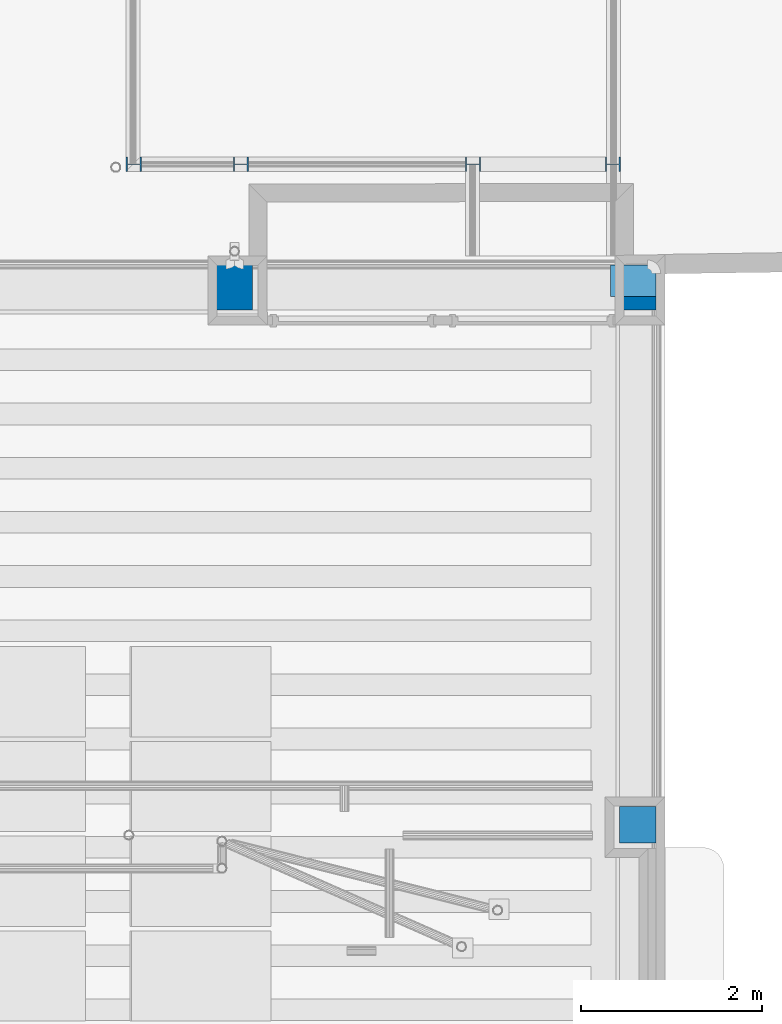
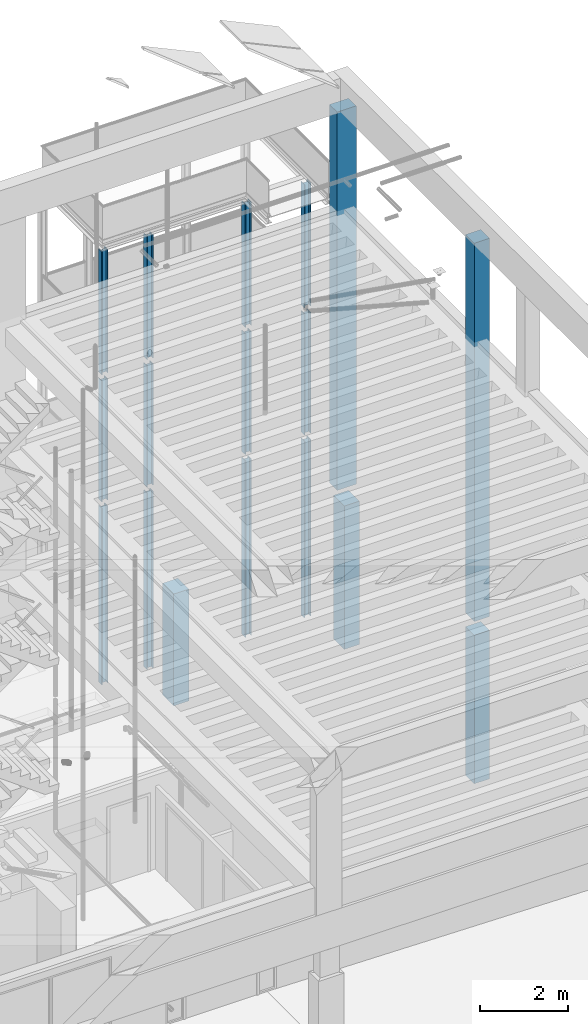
# One storey, part 2 of 108: 17 columns.
"""IFC2X3 building model written with IfcOpenShell, lengths in metres."""

import ifcopenshell
import ifcopenshell.guid

model = None  # the IFC model being written
_history = None  # IfcOwnerHistory: only IFC2X3 demands one
_inside = {}  # id of a spatial element -> (the spatial element, [elements in it])
_under = {}  # id of a project, library or spatial element -> (it, [spatial elements below it])
_declared = {}  # id of a project -> (the project, [libraries it declares])
_typed = {}  # id of a type object -> (the type object, [elements of that type])
_made_of = {}  # id of a material, layer set ... -> (it, [elements and type objects made of it])


def new_model(schema):
    """Start an empty IFC model of exactly this schema.

    Asked for "IFC4X3", IfcOpenShell would pick the latest addendum, in which some entities
    have other attributes; the version numbers below select the first issue.
    IFC2X3 requires an IfcOwnerHistory on every rooted entity: one is made here for all.
    """
    global model, _history
    if schema == "IFC4X3":
        model = ifcopenshell.file(schema_version=(4, 3, 0, 0))
    else:
        model = ifcopenshell.file(schema=schema)
    _inside.clear()
    _under.clear()
    _declared.clear()
    _typed.clear()
    _made_of.clear()
    _history = None
    if model.schema == "IFC2X3":
        org = make("IfcOrganization", Name="unknown")
        user = make(
            "IfcPersonAndOrganization",
            ThePerson=make("IfcPerson", FamilyName="unknown"),
            TheOrganization=org,
        )
        app = make(
            "IfcApplication",
            ApplicationDeveloper=org,
            Version="unknown",
            ApplicationFullName="unknown",
            ApplicationIdentifier="unknown",
        )
        _history = make(
            "IfcOwnerHistory",
            OwningUser=user,
            OwningApplication=app,
            ChangeAction="ADDED",
            CreationDate=0,
        )
    return model


def make(cls, **values):
    """One entity of the class cls with the attributes given. An attribute that is None is left unset."""
    return model.create_entity(
        cls, **{name: value for name, value in values.items() if value is not None}
    )


def entity(cls, *values):
    """Any entity or typed value of the class cls, its attributes in the order of the schema. None: left unset."""
    e = model.create_entity(cls)
    for i, value in enumerate(values):
        if value is not None:
            e[i] = value
    return e


def rooted(cls, **values):
    """An entity with a GlobalId (a new one), such as an element, a storey or a relation."""
    return make(cls, GlobalId=ifcopenshell.guid.new(), OwnerHistory=_history, **values)


def si_unit(unit_type, name, prefix=None):
    """IfcSIUnit, for example si_unit("LENGTHUNIT", "METRE", prefix="MILLI")."""
    return make("IfcSIUnit", UnitType=unit_type, Prefix=prefix, Name=name)


def converted_unit(unit_type, name, factor, base, dimensions=None, offset=None):
    """IfcConversionBasedUnit, such as the inch: factor (a typed value) times the base unit."""
    return make(
        "IfcConversionBasedUnit"
        if offset is None
        else "IfcConversionBasedUnitWithOffset",
        ConversionOffset=offset,
        Dimensions=None
        if dimensions is None
        else entity("IfcDimensionalExponents", *dimensions),
        UnitType=unit_type,
        Name=name,
        ConversionFactor=make(
            "IfcMeasureWithUnit", ValueComponent=factor, UnitComponent=base
        ),
    )


def derived_unit(unit_type, elements):
    """IfcDerivedUnit: a product of units, each with its exponent."""
    return make(
        "IfcDerivedUnit",
        Elements=[
            make("IfcDerivedUnitElement", Unit=unit, Exponent=power)
            for unit, power in elements
        ],
        UnitType=unit_type,
    )


def money_unit(currency):
    """IfcMonetaryUnit."""
    return make("IfcMonetaryUnit", Currency=currency)


def assignment(units):
    """IfcUnitAssignment: the units of a project."""
    return None if units is None else make("IfcUnitAssignment", Units=units)


def point(xyz):
    """IfcCartesianPoint."""
    return None if xyz is None else make("IfcCartesianPoint", Coordinates=xyz)


def direction(xyz):
    """IfcDirection."""
    return None if xyz is None else make("IfcDirection", DirectionRatios=xyz)


def frame(location, z_axis=None, x_axis=None):
    """IfcAxis2Placement3D, a coordinate frame: its origin and axes. An axis left out is left unset."""
    return make(
        "IfcAxis2Placement3D",
        Location=point(location),
        Axis=direction(z_axis),
        RefDirection=direction(x_axis),
    )


def frame_2d(location, x_axis=None):
    """IfcAxis2Placement2D, a coordinate frame in the plane: its origin and x axis."""
    return make(
        "IfcAxis2Placement2D", Location=point(location), RefDirection=direction(x_axis)
    )


def origin_with_axes():
    """The frame at (0, 0, 0) with the z axis (0, 0, 1) and the x axis (1, 0, 0) written out."""
    return frame((0.0, 0.0, 0.0), z_axis=(0.0, 0.0, 1.0), x_axis=(1.0, 0.0, 0.0))


def place(relative_to, where):
    """IfcLocalPlacement: puts the frame where relative to a parent placement (None: the world)."""
    return make(
        "IfcLocalPlacement", PlacementRelTo=relative_to, RelativePlacement=where
    )


def context(
    kind, dimensions, precision=None, world=None, true_north=None, identifier=None
):
    """IfcGeometricRepresentationContext, for example the 3D "Model" context."""
    return make(
        "IfcGeometricRepresentationContext",
        ContextIdentifier=identifier,
        ContextType=kind,
        CoordinateSpaceDimension=dimensions,
        Precision=precision,
        WorldCoordinateSystem=world,
        TrueNorth=true_north,
    )


def subcontext(parent, identifier, kind, view, scale=None):
    """IfcGeometricRepresentationSubContext, for example "Body" below "Model"."""
    return make(
        "IfcGeometricRepresentationSubContext",
        ContextIdentifier=identifier,
        ContextType=kind,
        ParentContext=parent,
        TargetScale=scale,
        TargetView=view,
    )


def project(units=None, contexts=None):
    """IfcProject with its units and contexts."""
    return rooted(
        "IfcProject",
        Name="project",
        RepresentationContexts=contexts,
        UnitsInContext=assignment(units),
    )


def spatial(cls, under=None, at=None, **own):
    """A site, building, storey or space (cls), placed at a placement, below another one or the project."""
    s = rooted(cls, ObjectPlacement=at, **own)
    if under is not None:
        _under.setdefault(under.id(), (under, []))[1].append(s)
    return s


def polyline(points):
    """IfcPolyline through the points."""
    return make("IfcPolyline", Points=[point(p) for p in points])


def profile(cls, at=None, kind="AREA", **sizes):
    """A parametric profile (cls). Its sizes go by their IFC names, for example OverallWidth=200.0."""
    return make(cls, ProfileType=kind, Position=at, **sizes)


def rectangle(**sizes):
    """IfcRectangleProfileDef."""
    return profile("IfcRectangleProfileDef", **sizes)


def outline(outer, holes=None, kind="AREA"):
    """IfcArbitraryClosedProfileDef: a profile drawn as a closed curve; with holes, ...WithVoids."""
    if holes is None:
        return make("IfcArbitraryClosedProfileDef", ProfileType=kind, OuterCurve=outer)
    return make(
        "IfcArbitraryProfileDefWithVoids",
        ProfileType=kind,
        OuterCurve=outer,
        InnerCurves=holes,
    )


def extrude(swept, where, along, depth):
    """IfcExtrudedAreaSolid: the profile swept, set in the frame where, extruded along a direction by depth."""
    return make(
        "IfcExtrudedAreaSolid",
        SweptArea=swept,
        Position=where,
        ExtrudedDirection=direction(along),
        Depth=depth,
    )


def shape(context_of_items, identifier, shape_type, items):
    """IfcShapeRepresentation: the items that make up one representation, for example the "Body"."""
    return make(
        "IfcShapeRepresentation",
        ContextOfItems=context_of_items,
        RepresentationIdentifier=identifier,
        RepresentationType=shape_type,
        Items=items,
    )


def material(Name=None, Category=None):
    """IfcMaterial."""
    return make("IfcMaterial", Name=Name, Category=Category)


def made_of(thing, what):
    """Note that an element or type object is made of a material, layer set ...; save() writes the relation."""
    if what is not None:
        _made_of.setdefault(what.id(), (what, []))[1].append(thing)
    return thing


def type_object(cls, material=None, **own):
    """A type object (cls), such as IfcWallType, which elements share."""
    return made_of(rooted(cls, **own), material)


def element(
    cls,
    number,
    at=None,
    inside=None,
    cuts=None,
    type_object=None,
    material=None,
    context=None,
    identifier="Body",
    shape_type=None,
    held_by="IfcProductDefinitionShape",
    body=None,
    shapes=None,
    **own,
):
    """One element of the class cls, such as IfcWall. Its Tag is "e" and its number.

    at: its placement. inside: the storey or other place that contains it. cuts: it is an
    opening in that element (IfcRelVoidsElement). A single representation is given by context,
    identifier, shape_type and body (its items); several are given by shapes. held_by: the class
    of the entity that holds the representations. save() writes the other relations.
    """
    e = rooted(cls, Tag="e%d" % number, ObjectPlacement=at, **own)
    if body is not None:
        shapes = [shape(context, identifier, shape_type, body)]
    if shapes is not None:
        e.Representation = make(held_by, Representations=shapes)
    if inside is not None:
        _inside.setdefault(inside.id(), (inside, []))[1].append(e)
    if cuts is not None:
        rooted(
            "IfcRelVoidsElement", RelatingBuildingElement=cuts, RelatedOpeningElement=e
        )
    if type_object is not None:
        _typed.setdefault(type_object.id(), (type_object, []))[1].append(e)
    return made_of(e, material)


def aggregate(whole, parts):
    """IfcRelAggregates: a whole, such as a stair, and the parts it consists of."""
    return rooted("IfcRelAggregates", RelatingObject=whole, RelatedObjects=parts)


def save(model, path):
    """Write the relations noted so far, then the file.

    IfcRelAggregates (storeys below a building ...), IfcRelContainedInSpatialStructure (elements
    in a storey), IfcRelDefinesByType, IfcRelAssociatesMaterial and IfcRelDeclares: one each for
    every whole, place, type object, material and project.
    """
    for whole, parts in _under.values():
        aggregate(whole, parts)
    for where, things in _inside.values():
        rooted(
            "IfcRelContainedInSpatialStructure",
            RelatedElements=things,
            RelatingStructure=where,
        )
    for kind, things in _typed.values():
        rooted("IfcRelDefinesByType", RelatedObjects=things, RelatingType=kind)
    for what, things in _made_of.values():
        rooted("IfcRelAssociatesMaterial", RelatedObjects=things, RelatingMaterial=what)
    for by, libraries in _declared.values():
        rooted("IfcRelDeclares", RelatingContext=by, RelatedDefinitions=libraries)
    model.write(path)


model = new_model("IFC2X3")

# Units and contexts
model_context = context("Model", 3, precision=1e-05, world=origin_with_axes(), true_north=direction((0.0, 1.0)))
body_context = subcontext(model_context, "Body", "Model", "MODEL_VIEW", scale=1.0)
ifc_project = project(units=[si_unit("LENGTHUNIT", "METRE"), si_unit("AREAUNIT", "SQUARE_METRE"), si_unit("VOLUMEUNIT", "CUBIC_METRE"), si_unit("ABSORBEDDOSEUNIT", "GRAY"), si_unit("AMOUNTOFSUBSTANCEUNIT", "MOLE"), si_unit("DOSEEQUIVALENTUNIT", "SIEVERT"), si_unit("ELECTRICCAPACITANCEUNIT", "FARAD"), si_unit("ELECTRICCHARGEUNIT", "COULOMB"), si_unit("ELECTRICCONDUCTANCEUNIT", "SIEMENS"), si_unit("ELECTRICCURRENTUNIT", "AMPERE"), si_unit("ELECTRICRESISTANCEUNIT", "OHM"), si_unit("ELECTRICVOLTAGEUNIT", "VOLT"), si_unit("ENERGYUNIT", "JOULE"), si_unit("FORCEUNIT", "NEWTON"), si_unit("FREQUENCYUNIT", "HERTZ"), si_unit("ILLUMINANCEUNIT", "LUX"), si_unit("INDUCTANCEUNIT", "HENRY"), si_unit("LUMINOUSFLUXUNIT", "LUMEN"), si_unit("LUMINOUSINTENSITYUNIT", "CANDELA"), si_unit("MAGNETICFLUXDENSITYUNIT", "TESLA"), si_unit("MAGNETICFLUXUNIT", "WEBER"), si_unit("MASSUNIT", "GRAM"), converted_unit("PLANEANGLEUNIT", "degree", entity("IfcReal", 0.0174532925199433), si_unit("PLANEANGLEUNIT", "RADIAN"), dimensions=[0, 0, 0, 0, 0, 0, 0]), si_unit("POWERUNIT", "WATT"), si_unit("PRESSUREUNIT", "PASCAL"), si_unit("RADIOACTIVITYUNIT", "BECQUEREL"), si_unit("SOLIDANGLEUNIT", "STERADIAN"), si_unit("THERMODYNAMICTEMPERATUREUNIT", "KELVIN"), si_unit("TIMEUNIT", "SECOND"), derived_unit("ACCELERATIONUNIT", [(si_unit("LENGTHUNIT", "METRE"), 1), (si_unit("TIMEUNIT", "SECOND"), -2)]), derived_unit("ANGULARVELOCITYUNIT", [(converted_unit("PLANEANGLEUNIT", "degree", entity("IfcReal", 0.0174532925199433), si_unit("PLANEANGLEUNIT", "RADIAN"), dimensions=[0, 0, 0, 0, 0, 0, 0]), 1), (si_unit("TIMEUNIT", "SECOND"), -1)]), derived_unit("CURVATUREUNIT", [(converted_unit("PLANEANGLEUNIT", "degree", entity("IfcReal", 0.0174532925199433), si_unit("PLANEANGLEUNIT", "RADIAN"), dimensions=[0, 0, 0, 0, 0, 0, 0]), 1), (si_unit("LENGTHUNIT", "METRE"), -1)]), derived_unit("DYNAMICVISCOSITYUNIT", [(si_unit("PRESSUREUNIT", "PASCAL"), 1), (si_unit("TIMEUNIT", "SECOND"), 1)]), derived_unit("HEATFLUXDENSITYUNIT", [(si_unit("POWERUNIT", "WATT"), 1), (si_unit("LENGTHUNIT", "METRE"), -2)]), derived_unit("HEATINGVALUEUNIT", [(si_unit("ENERGYUNIT", "JOULE"), 1), (si_unit("MASSUNIT", "GRAM"), -1)]), derived_unit("INTEGERCOUNTRATEUNIT", [(si_unit("TIMEUNIT", "SECOND"), -1)]), derived_unit("IONCONCENTRATIONUNIT", [(si_unit("MASSUNIT", "GRAM"), 1), (si_unit("VOLUMEUNIT", "CUBIC_METRE"), -1)]), derived_unit("ISOTHERMALMOISTURECAPACITYUNIT", [(si_unit("VOLUMEUNIT", "CUBIC_METRE"), 1), (si_unit("MASSUNIT", "GRAM"), -1)]), derived_unit("KINEMATICVISCOSITYUNIT", [(si_unit("AREAUNIT", "SQUARE_METRE"), 1), (si_unit("TIMEUNIT", "SECOND"), -1)]), derived_unit("LINEARFORCEUNIT", [(si_unit("FORCEUNIT", "NEWTON"), 1), (si_unit("LENGTHUNIT", "METRE"), -1)]), derived_unit("LINEARMOMENTUNIT", [(si_unit("FORCEUNIT", "NEWTON"), 1), (si_unit("LENGTHUNIT", "METRE"), -1)]), derived_unit("LINEARSTIFFNESSUNIT", [(si_unit("FORCEUNIT", "NEWTON"), 1), (si_unit("LENGTHUNIT", "METRE"), -1)]), derived_unit("LINEARVELOCITYUNIT", [(si_unit("LENGTHUNIT", "METRE"), 1), (si_unit("TIMEUNIT", "SECOND"), -1)]), derived_unit("LUMINOUSINTENSITYDISTRIBUTIONUNIT", [(si_unit("LUMINOUSINTENSITYUNIT", "CANDELA"), 1), (si_unit("LUMINOUSFLUXUNIT", "LUMEN"), -1)]), derived_unit("MASSDENSITYUNIT", [(si_unit("MASSUNIT", "GRAM"), 1), (si_unit("VOLUMEUNIT", "CUBIC_METRE"), -1)]), derived_unit("MASSFLOWRATEUNIT", [(si_unit("MASSUNIT", "GRAM"), 1), (si_unit("TIMEUNIT", "SECOND"), -1)]), derived_unit("MASSPERLENGTHUNIT", [(si_unit("MASSUNIT", "GRAM"), 1), (si_unit("LENGTHUNIT", "METRE"), -1)]), derived_unit("MODULUSOFELASTICITYUNIT", [(si_unit("FORCEUNIT", "NEWTON"), 1), (si_unit("AREAUNIT", "SQUARE_METRE"), -1)]), derived_unit("MODULUSOFLINEARSUBGRADEREACTIONUNIT", [(si_unit("FORCEUNIT", "NEWTON"), 1), (si_unit("LENGTHUNIT", "METRE"), -2)]), derived_unit("MODULUSOFROTATIONALSUBGRADEREACTIONUNIT", [(si_unit("FORCEUNIT", "NEWTON"), 1), (si_unit("LENGTHUNIT", "METRE"), 1)]), derived_unit("MODULUSOFSUBGRADEREACTIONUNIT", [(si_unit("FORCEUNIT", "NEWTON"), 1), (si_unit("VOLUMEUNIT", "CUBIC_METRE"), -1)]), derived_unit("MOISTUREDIFFUSIVITYUNIT", [(si_unit("VOLUMEUNIT", "CUBIC_METRE"), 1), (si_unit("TIMEUNIT", "SECOND"), -1)]), derived_unit("MOLECULARWEIGHTUNIT", [(si_unit("MASSUNIT", "GRAM"), 1), (si_unit("AMOUNTOFSUBSTANCEUNIT", "MOLE"), -1)]), derived_unit("PLANARFORCEUNIT", [(si_unit("FORCEUNIT", "NEWTON"), 1), (si_unit("LENGTHUNIT", "METRE"), -2)]), derived_unit("ROTATIONALFREQUENCYUNIT", [(si_unit("TIMEUNIT", "SECOND"), -1)]), derived_unit("ROTATIONALMASSUNIT", [(si_unit("MASSUNIT", "GRAM"), 1), (si_unit("LENGTHUNIT", "METRE"), 2)]), derived_unit("ROTATIONALSTIFFNESSUNIT", [(si_unit("FORCEUNIT", "NEWTON"), 1), (si_unit("LENGTHUNIT", "METRE"), 1), (converted_unit("PLANEANGLEUNIT", "degree", entity("IfcReal", 0.0174532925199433), si_unit("PLANEANGLEUNIT", "RADIAN"), dimensions=[0, 0, 0, 0, 0, 0, 0]), -1)]), derived_unit("SECTIONAREAINTEGRALUNIT", [(si_unit("LENGTHUNIT", "METRE"), 5)]), derived_unit("SECTIONMODULUSUNIT", [(si_unit("LENGTHUNIT", "METRE"), 3)]), derived_unit("SHEARMODULUSUNIT", [(si_unit("FORCEUNIT", "NEWTON"), 1), (si_unit("AREAUNIT", "SQUARE_METRE"), -1)]), derived_unit("SOUNDPOWERUNIT", [(si_unit("ENERGYUNIT", "JOULE"), 1), (si_unit("TIMEUNIT", "SECOND"), -1)]), derived_unit("SPECIFICHEATCAPACITYUNIT", [(si_unit("FORCEUNIT", "NEWTON"), 1), (si_unit("MASSUNIT", "GRAM"), -1), (si_unit("THERMODYNAMICTEMPERATUREUNIT", "KELVIN"), -1)]), derived_unit("TEMPERATUREGRADIENTUNIT", [(si_unit("THERMODYNAMICTEMPERATUREUNIT", "KELVIN"), 1), (si_unit("LENGTHUNIT", "METRE"), -1)]), derived_unit("THERMALADMITTANCEUNIT", [(si_unit("POWERUNIT", "WATT"), 1), (si_unit("AREAUNIT", "SQUARE_METRE"), -1), (si_unit("THERMODYNAMICTEMPERATUREUNIT", "KELVIN"), -1)]), derived_unit("THERMALCONDUCTANCEUNIT", [(si_unit("POWERUNIT", "WATT"), 1), (si_unit("LENGTHUNIT", "METRE"), -1), (si_unit("THERMODYNAMICTEMPERATUREUNIT", "KELVIN"), -1)]), derived_unit("THERMALEXPANSIONCOEFFICIENTUNIT", [(si_unit("THERMODYNAMICTEMPERATUREUNIT", "KELVIN"), -1)]), derived_unit("THERMALRESISTANCEUNIT", [(si_unit("AREAUNIT", "SQUARE_METRE"), 1), (si_unit("POWERUNIT", "WATT"), -1)]), derived_unit("THERMALTRANSMITTANCEUNIT", [(si_unit("POWERUNIT", "WATT"), 1), (si_unit("AREAUNIT", "SQUARE_METRE"), -1), (si_unit("THERMODYNAMICTEMPERATUREUNIT", "KELVIN"), -1)]), derived_unit("TORQUEUNIT", [(si_unit("FORCEUNIT", "NEWTON"), 1), (si_unit("LENGTHUNIT", "METRE"), 1)]), derived_unit("VAPORPERMEABILITYUNIT", [(si_unit("MASSUNIT", "GRAM"), 1), (si_unit("TIMEUNIT", "SECOND"), -1)]), derived_unit("VOLUMETRICFLOWRATEUNIT", [(si_unit("VOLUMEUNIT", "CUBIC_METRE"), 1), (si_unit("TIMEUNIT", "SECOND"), -1)]), derived_unit("WARPINGCONSTANTUNIT", [(si_unit("LENGTHUNIT", "METRE"), 6)]), derived_unit("WARPINGMOMENTUNIT", [(si_unit("FORCEUNIT", "NEWTON"), 1), (si_unit("LENGTHUNIT", "METRE"), 2)]), money_unit("GBP")], contexts=[model_context])

# Site, building, storey
site_placement = place(None, origin_with_axes())
site = spatial("IfcSite", under=ifc_project, at=site_placement, Name="Site", CompositionType="ELEMENT")
building_placement = place(site_placement, origin_with_axes())
building = spatial("IfcBuilding", under=site, at=building_placement, Name="Building01", CompositionType="ELEMENT")
storey_placement = place(building_placement, origin_with_axes())
storey = spatial("IfcBuildingStorey", under=building, at=storey_placement, Name="GF", CompositionType="ELEMENT", Elevation=0.0)

# Columns
ifc_material_1 = material(Name="A_BSUK_Columns_Steel")
column_type_1 = type_object("IfcColumnType", Name="A-Columns-Steel", PredefinedType="COLUMN")
for number, where, z_axis, x_axis, name in (
    (1, (26.490035, 15.837181, 0.0), (0.0, 0.0, 1.0), (0.0, 1.0, 0.0), "A-Columns-Steel"),
    (2, (24.940035, 15.837181, 0.0), (0.0, 0.0, 1.0), (0.0, 1.0, 0.0), "A-Columns-Steel"),
    (3, (22.370035, 15.837181, 0.0), (0.0, 0.0, 1.0), (0.0, 1.0, 0.0), "A-Columns-Steel"),
    (4, (21.181634, 15.837181, 0.0), (0.0, 0.0, 1.0), (0.0, 1.0, 0.0), "A-Columns-Steel"),
):
    element("IfcColumn", number, at=place(storey_placement, frame(where, z_axis=z_axis, x_axis=x_axis)), inside=storey, type_object=column_type_1, material=ifc_material_1, Name=name, ObjectType="A-Columns-Steel", context=body_context, shape_type="SweptSolid", body=[
        extrude(outline(polyline([(0.1574, 0.0), (0.1574, 0.0157), (0.0842, 0.0157), (0.0842, 0.1545), (0.1574, 0.1545), (0.1574, 0.1702), (0.0, 0.1702), (0.0, 0.1545), (0.0732, 0.1545), (0.0732, 0.0157), (0.0, 0.0157), (0.0, 0.0), (0.1574, 0.0)])), origin_with_axes(), (0.0, 0.0, 1.0), 4.894),
    ])
for number, where, z_axis, x_axis, name in (
    (5, (26.490035, 15.837181, 5.064467), (0.0, 0.0, 1.0), (0.0, 1.0, 0.0), "A-Columns-Steel"),
    (6, (24.940035, 15.837181, 5.064467), (0.0, 0.0, 1.0), (0.0, 1.0, 0.0), "A-Columns-Steel"),
    (7, (22.370035, 15.837181, 5.064467), (0.0, 0.0, 1.0), (0.0, 1.0, 0.0), "A-Columns-Steel"),
    (8, (21.181634, 15.837181, 5.064467), (0.0, 0.0, 1.0), (0.0, 1.0, 0.0), "A-Columns-Steel"),
):
    element("IfcColumn", number, at=place(storey_placement, frame(where, z_axis=z_axis, x_axis=x_axis)), inside=storey, type_object=column_type_1, material=ifc_material_1, Name=name, ObjectType="A-Columns-Steel", context=body_context, shape_type="SweptSolid", body=[
        extrude(outline(polyline([(0.1574, 0.0), (0.1574, 0.0157), (0.0842, 0.0157), (0.0842, 0.1545), (0.1574, 0.1545), (0.1574, 0.1702), (0.0, 0.1702), (0.0, 0.1545), (0.0732, 0.1545), (0.0732, 0.0157), (0.0, 0.0157), (0.0, 0.0), (0.1574, 0.0)])), origin_with_axes(), (0.0, 0.0, 1.0), 3.353),
    ])
for number, where, z_axis, x_axis, name in (
    (9, (21.181634, 15.837181, 8.587442), (0.0, 0.0, 1.0), (0.0, 1.0, 0.0), "A-Columns-Steel"),
    (10, (22.370035, 15.837181, 8.587442), (0.0, 0.0, 1.0), (0.0, 1.0, 0.0), "A-Columns-Steel"),
    (11, (24.940035, 15.837181, 8.587442), (0.0, 0.0, 1.0), (0.0, 1.0, 0.0), "A-Columns-Steel"),
    (12, (26.490035, 15.837181, 8.587442), (0.0, 0.0, 1.0), (0.0, 1.0, 0.0), "A-Columns-Steel"),
):
    element("IfcColumn", number, at=place(storey_placement, frame(where, z_axis=z_axis, x_axis=x_axis)), inside=storey, type_object=column_type_1, material=ifc_material_1, Name=name, ObjectType="A-Columns-Steel", context=body_context, shape_type="SweptSolid", body=[
        extrude(outline(polyline([(0.1574, 0.0), (0.1574, 0.0157), (0.0842, 0.0157), (0.0842, 0.1545), (0.1574, 0.1545), (0.1574, 0.1702), (0.0, 0.1702), (0.0, 0.1545), (0.0732, 0.1545), (0.0732, 0.0157), (0.0, 0.0157), (0.0, 0.0), (0.1574, 0.0)])), origin_with_axes(), (0.0, 0.0, 1.0), 3.413),
    ])
ifc_material_2 = material(Name="A_BSUK_Columns_ReinforcedConcrete")
column_type_2 = type_object("IfcColumnType", Name="A-Columns-Concrete", PredefinedType="COLUMN")
column_1_placement = place(storey_placement, frame((26.48, 8.4, -0.145), z_axis=(0.0, 0.0, 1.0), x_axis=(1.0, 0.0, 0.0)))
element("IfcColumn", 13, at=column_1_placement, inside=storey, type_object=column_type_2, material=ifc_material_2, Name="A-Columns-Concrete", ObjectType="A-Columns-Concrete", context=body_context, shape_type="SweptSolid", body=[
    extrude(rectangle(XDim=0.4, YDim=0.4, at=frame_2d((0.2, 0.2), x_axis=(0.0, 1.0))), origin_with_axes(), (0.0, 0.0, 1.0), 4.115),
])
column_2_placement = place(storey_placement, frame((26.88, 14.45, 14.83), z_axis=(0.0, 0.0, -1.0), x_axis=(0.0, 1.0, 0.0)))
element("IfcColumn", 14, at=column_2_placement, inside=storey, type_object=column_type_2, material=ifc_material_2, Name="A-Columns-Concrete", ObjectType="A-Columns-Concrete", context=body_context, shape_type="SweptSolid", body=[
    extrude(rectangle(XDim=0.5, YDim=0.35, at=frame_2d((0.175, -0.25), x_axis=(0.0, -1.0))), origin_with_axes(), (0.0, 0.0, 1.0), 10.48),
])
column_3_placement = place(storey_placement, frame((26.48, 14.3, 0.0), z_axis=(0.0, 0.0, 1.0), x_axis=(1.0, 0.0, 0.0)))
element("IfcColumn", 15, at=column_3_placement, inside=storey, type_object=column_type_2, material=ifc_material_2, Name="A-Columns-Concrete", ObjectType="A-Columns-Concrete", context=body_context, shape_type="SweptSolid", body=[
    extrude(rectangle(XDim=0.5, YDim=0.4, at=frame_2d((0.2, 0.25), x_axis=(0.0, 1.0))), origin_with_axes(), (0.0, 0.0, 1.0), 3.97),
])
column_4_placement = place(storey_placement, frame((22.01, 14.3, 0.0), z_axis=(0.0, 0.0, 1.0), x_axis=(1.0, 0.0, 0.0)))
element("IfcColumn", 16, at=column_4_placement, inside=storey, type_object=column_type_2, material=ifc_material_2, Name="A-Columns-Concrete", ObjectType="A-Columns-Concrete", context=body_context, shape_type="SweptSolid", body=[
    extrude(rectangle(XDim=0.5, YDim=0.4, at=frame_2d((0.2, 0.25), x_axis=(0.0, 1.0))), origin_with_axes(), (0.0, 0.0, 1.0), 3.1),
])
column_5_placement = place(storey_placement, frame((26.48, 8.4, 4.35), z_axis=(0.0, 0.0, 1.0), x_axis=(1.0, 0.0, 0.0)))
element("IfcColumn", 17, at=column_5_placement, inside=storey, type_object=column_type_2, material=ifc_material_2, Name="A-Columns-Concrete", ObjectType="A-Columns-Concrete", context=body_context, shape_type="SweptSolid", body=[
    extrude(rectangle(XDim=0.4, YDim=0.4, at=frame_2d((0.2, 0.2), x_axis=(0.0, 1.0))), origin_with_axes(), (0.0, 0.0, 1.0), 10.48),
])

save(model, "model.ifc")
